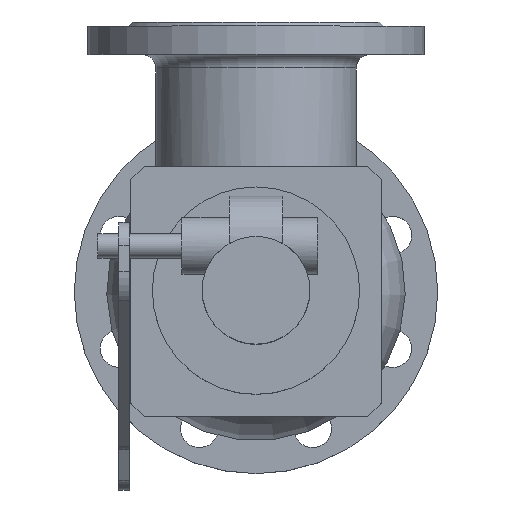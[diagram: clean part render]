
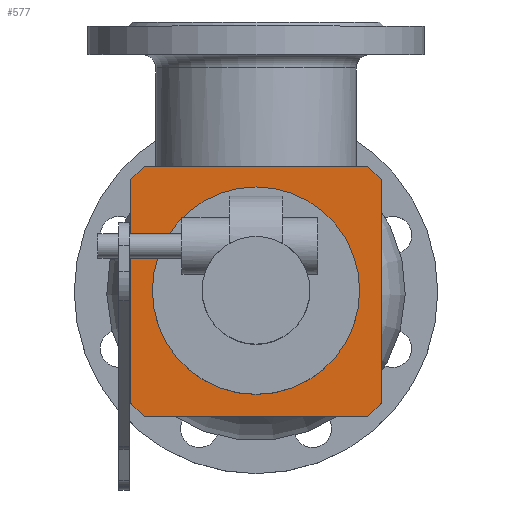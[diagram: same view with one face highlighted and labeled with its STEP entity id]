
A CAD part, top view. The second image highlights one B-rep face of the part: STEP entity #577.
In plain terms, the highlighted planar face has unit normal (0, 0, 1).
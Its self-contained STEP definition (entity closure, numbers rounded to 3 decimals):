
#577=ADVANCED_FACE('',(#1761,#1763),#1765,.T.);
#1761=FACE_BOUND('',#1762,.T.);
#1762=EDGE_LOOP('',(#2644,#2645,#2646,#2647,#2648,#2649,#2650,#2651));
#1763=FACE_BOUND('',#1764,.T.);
#1764=EDGE_LOOP('',(#2652));
#1765=PLANE('',#1766);
#1766=AXIS2_PLACEMENT_3D('',#1767,#1768,#1769);
#1767=CARTESIAN_POINT('',(0.,0.,312.));
#1768=DIRECTION('',(0.,0.,1.));
#1769=DIRECTION('',(0.,1.,0.));
#2644=ORIENTED_EDGE('',*,*,#3168,.F.);
#2645=ORIENTED_EDGE('',*,*,#3182,.T.);
#2646=ORIENTED_EDGE('',*,*,#3180,.F.);
#2647=ORIENTED_EDGE('',*,*,#3179,.T.);
#2648=ORIENTED_EDGE('',*,*,#3176,.F.);
#2649=ORIENTED_EDGE('',*,*,#3174,.T.);
#2650=ORIENTED_EDGE('',*,*,#3172,.F.);
#2651=ORIENTED_EDGE('',*,*,#3170,.T.);
#2652=ORIENTED_EDGE('',*,*,#3185,.T.);
#3168=EDGE_CURVE('',#3570,#3572,#3573,.F.);
#3170=EDGE_CURVE('',#3575,#3572,#3576,.T.);
#3172=EDGE_CURVE('',#3575,#3578,#3579,.F.);
#3174=EDGE_CURVE('',#3581,#3578,#3582,.T.);
#3176=EDGE_CURVE('',#3581,#3584,#3585,.F.);
#3179=EDGE_CURVE('',#3587,#3584,#3589,.T.);
#3180=EDGE_CURVE('',#3587,#3590,#3591,.F.);
#3182=EDGE_CURVE('',#3570,#3590,#3593,.T.);
#3185=EDGE_CURVE('',#3598,#3598,#3599,.T.);
#3570=VERTEX_POINT('',#4767);
#3572=VERTEX_POINT('',#4771);
#3573=LINE('',#4772,#4773);
#3575=VERTEX_POINT('',#4778);
#3576=LINE('',#4779,#4780);
#3578=VERTEX_POINT('',#4785);
#3579=LINE('',#4786,#4787);
#3581=VERTEX_POINT('',#4792);
#3582=LINE('',#4793,#4794);
#3584=VERTEX_POINT('',#4799);
#3585=LINE('',#4800,#4801);
#3587=VERTEX_POINT('',#4806);
#3589=LINE('',#4810,#4811);
#3590=VERTEX_POINT('',#4813);
#3591=LINE('',#4814,#4815);
#3593=LINE('',#4820,#4821);
#3598=VERTEX_POINT('',#4833);
#3599=CIRCLE('',#4834,64.);
#4767=CARTESIAN_POINT('',(-83.,-93.,312.));
#4771=CARTESIAN_POINT('',(-93.,-83.,312.));
#4772=CARTESIAN_POINT('',(-93.,-83.,312.));
#4773=VECTOR('',#4774,1.);
#4774=DIRECTION('',(0.707,-0.707,0.));
#4778=CARTESIAN_POINT('',(-93.,83.,312.));
#4779=CARTESIAN_POINT('',(-93.,83.,312.));
#4780=VECTOR('',#4781,1.);
#4781=DIRECTION('',(0.,-1.,0.));
#4785=CARTESIAN_POINT('',(-83.,93.,312.));
#4786=CARTESIAN_POINT('',(-83.,93.,312.));
#4787=VECTOR('',#4788,1.);
#4788=DIRECTION('',(-0.707,-0.707,0.));
#4792=CARTESIAN_POINT('',(83.,93.,312.));
#4793=CARTESIAN_POINT('',(83.,93.,312.));
#4794=VECTOR('',#4795,1.);
#4795=DIRECTION('',(-1.,0.,0.));
#4799=CARTESIAN_POINT('',(93.,83.,312.));
#4800=CARTESIAN_POINT('',(93.,83.,312.));
#4801=VECTOR('',#4802,1.);
#4802=DIRECTION('',(-0.707,0.707,0.));
#4806=CARTESIAN_POINT('',(93.,-83.,312.));
#4810=CARTESIAN_POINT('',(93.,-83.,312.));
#4811=VECTOR('',#4812,1.);
#4812=DIRECTION('',(0.,1.,0.));
#4813=CARTESIAN_POINT('',(83.,-93.,312.));
#4814=CARTESIAN_POINT('',(83.,-93.,312.));
#4815=VECTOR('',#4816,1.);
#4816=DIRECTION('',(0.707,0.707,0.));
#4820=CARTESIAN_POINT('',(-83.,-93.,312.));
#4821=VECTOR('',#4822,1.);
#4822=DIRECTION('',(1.,0.,0.));
#4833=CARTESIAN_POINT('',(0.,64.,312.));
#4834=AXIS2_PLACEMENT_3D('',#4835,#4836,#4837);
#4835=CARTESIAN_POINT('',(0.,0.,312.));
#4836=DIRECTION('',(0.,0.,-1.));
#4837=DIRECTION('',(0.,1.,0.));
